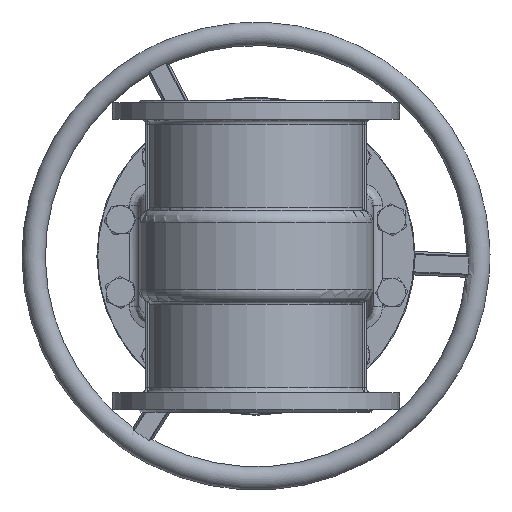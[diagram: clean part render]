
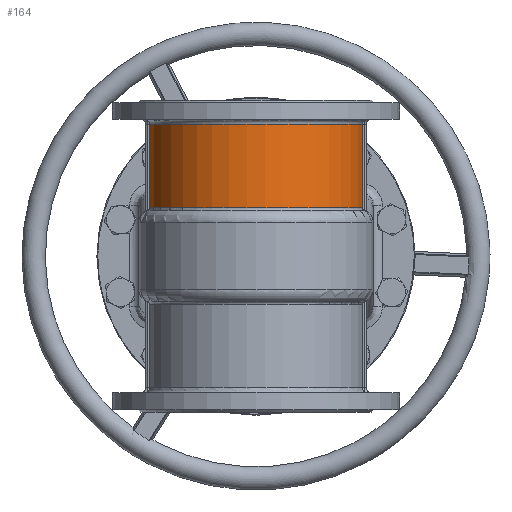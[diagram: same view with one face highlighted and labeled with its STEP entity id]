
A CAD part, front view. The second image highlights one B-rep face of the part: STEP entity #164.
In plain terms, the highlighted cylindrical face has radius 172.5 mm (diameter 345 mm), a partial arc.
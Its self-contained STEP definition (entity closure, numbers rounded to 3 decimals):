
#164=ADVANCED_FACE('',(#11998),#12000,.T.);
#11998=FACE_BOUND('',#11999,.T.);
#11999=EDGE_LOOP('',(#25267,#25268,#25269,#25270));
#12000=CYLINDRICAL_SURFACE('',#12001,172.5);
#12001=AXIS2_PLACEMENT_3D('',#12002,#12003,#12004);
#12002=CARTESIAN_POINT('',(0.,0.,211.5));
#12003=DIRECTION('',(0.,0.,1.));
#12004=DIRECTION('',(1.,0.,0.));
#25267=ORIENTED_EDGE('',*,*,#31548,.F.);
#25268=ORIENTED_EDGE('',*,*,#31549,.T.);
#25269=ORIENTED_EDGE('',*,*,#31550,.T.);
#25270=ORIENTED_EDGE('',*,*,#31551,.F.);
#31548=EDGE_CURVE('',#34633,#34634,#34635,.T.);
#31549=EDGE_CURVE('',#34633,#34636,#34637,.T.);
#31550=EDGE_CURVE('',#34636,#34638,#34639,.T.);
#31551=EDGE_CURVE('',#34634,#34638,#34640,.T.);
#34633=VERTEX_POINT('',#39613);
#34634=VERTEX_POINT('',#39614);
#34635=CIRCLE('',#39615,172.5);
#34636=VERTEX_POINT('',#39619);
#34637=LINE('',#39620,#39621);
#34638=VERTEX_POINT('',#39623);
#34639=CIRCLE('',#39624,172.5);
#34640=LINE('',#39628,#39629);
#39613=CARTESIAN_POINT('',(-170.491,-26.25,211.));
#39614=CARTESIAN_POINT('',(170.491,-26.25,211.));
#39615=AXIS2_PLACEMENT_3D('',#39616,#39617,#39618);
#39616=CARTESIAN_POINT('',(0.,0.,211.));
#39617=DIRECTION('',(0.,0.,1.));
#39618=DIRECTION('',(-0.988,-0.152,0.));
#39619=CARTESIAN_POINT('',(-170.491,-26.25,77.238));
#39620=CARTESIAN_POINT('',(-170.491,-26.25,211.));
#39621=VECTOR('',#39622,1.);
#39622=DIRECTION('',(0.,0.,-1.));
#39623=CARTESIAN_POINT('',(170.491,-26.25,77.238));
#39624=AXIS2_PLACEMENT_3D('',#39625,#39626,#39627);
#39625=CARTESIAN_POINT('',(0.,0.,77.238));
#39626=DIRECTION('',(0.,0.,1.));
#39627=DIRECTION('',(-0.988,-0.152,0.));
#39628=CARTESIAN_POINT('',(170.491,-26.25,211.));
#39629=VECTOR('',#39630,1.);
#39630=DIRECTION('',(0.,0.,-1.));
